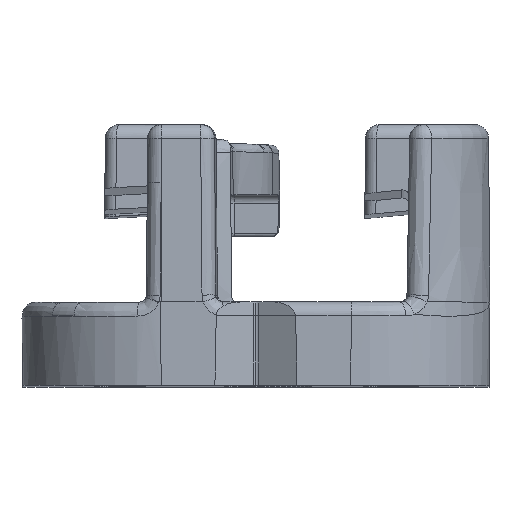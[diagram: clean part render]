
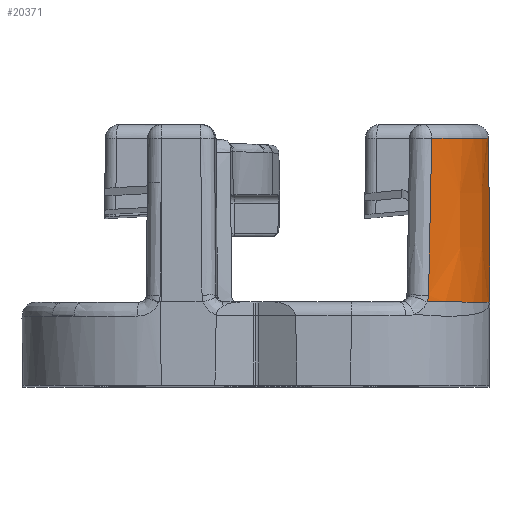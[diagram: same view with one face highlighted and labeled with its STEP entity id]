
A CAD part, top view. The second image highlights one B-rep face of the part: STEP entity #20371.
In plain terms, the highlighted conical face has half-angle 0.5 degrees and reference radius 4.961 mm.
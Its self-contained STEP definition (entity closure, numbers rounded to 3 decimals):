
#158 = CARTESIAN_POINT ( 'NONE',  ( 6.228, -6.159, 24.083 ) ) ;
#423 = VERTEX_POINT ( 'NONE', #7329 ) ;
#936 = EDGE_CURVE ( 'NONE', #16827, #423, #12722, .T. ) ;
#1351 = DIRECTION ( 'NONE',  ( 0., -1., 0. ) ) ;
#2146 = CARTESIAN_POINT ( 'NONE',  ( 6.304, -2.332, 23.99 ) ) ;
#2474 = B_SPLINE_CURVE_WITH_KNOTS ( 'NONE', 3,
 ( #21622, #8543, #6410, #23764, #2146, #17073, #11248, #6275, #14941, #158 ),
 .UNSPECIFIED., .F., .F.,
 ( 4, 3, 3, 4 ),
 ( 0., 0.001, 0.005, 0.006 ),
 .UNSPECIFIED. ) ;
#3490 = FACE_OUTER_BOUND ( 'NONE', #5297, .T. ) ;
#3753 = CARTESIAN_POINT ( 'NONE',  ( 8.444, -6.4, 19.918 ) ) ;
#4859 = CARTESIAN_POINT ( 'NONE',  ( 6.228, -6.159, 24.083 ) ) ;
#5229 = VERTEX_POINT ( 'NONE', #4859 ) ;
#5297 = EDGE_LOOP ( 'NONE', ( #16585, #17966, #19779, #22817, #7320, #9445 ) ) ;
#6169 = EDGE_CURVE ( 'NONE', #24828, #27653, #22641, .T. ) ;
#6275 = CARTESIAN_POINT ( 'NONE',  ( 6.243, -5.385, 24.064 ) ) ;
#6410 = CARTESIAN_POINT ( 'NONE',  ( 6.334, -0.832, 23.952 ) ) ;
#6618 = AXIS2_PLACEMENT_3D ( 'NONE', #11874, #1351, #20550 ) ;
#7320 = ORIENTED_EDGE ( 'NONE', *, *, #6169, .T. ) ;
#7329 = CARTESIAN_POINT ( 'NONE',  ( 6.341, -0.496, 23.943 ) ) ;
#8246 = CARTESIAN_POINT ( 'NONE',  ( 6.179, -6.4, 24.118 ) ) ;
#8341 = CARTESIAN_POINT ( 'NONE',  ( 3.418, -0.496, 19.918 ) ) ;
#8543 = CARTESIAN_POINT ( 'NONE',  ( 6.338, -0.664, 23.948 ) ) ;
#8803 = EDGE_CURVE ( 'NONE', #16827, #17931, #18554, .T. ) ;
#9025 = DIRECTION ( 'NONE',  ( 0., 1., 0. ) ) ;
#9445 = ORIENTED_EDGE ( 'NONE', *, *, #22477, .T. ) ;
#9707 = CARTESIAN_POINT ( 'NONE',  ( 6.209, -6.324, 24.097 ) ) ;
#11248 = CARTESIAN_POINT ( 'NONE',  ( 6.251, -4.997, 24.055 ) ) ;
#11874 = CARTESIAN_POINT ( 'NONE',  ( 3.418, 1., 19.918 ) ) ;
#12000 = CARTESIAN_POINT ( 'NONE',  ( 6.226, -6.243, 24.085 ) ) ;
#12218 = B_SPLINE_CURVE_WITH_KNOTS ( 'NONE', 3,
 ( #25059, #12000, #9707, #20669 ),
 .UNSPECIFIED., .F., .F.,
 ( 4, 4 ),
 ( 0., 0. ),
 .UNSPECIFIED. ) ;
#12282 = EDGE_CURVE ( 'NONE', #423, #5229, #2474, .T. ) ;
#12722 = CIRCLE ( 'NONE', #25415, 4.974 ) ;
#12829 = CIRCLE ( 'NONE', #25072, 5.026 ) ;
#12908 = DIRECTION ( 'NONE',  ( 0., -1., 0. ) ) ;
#13434 = DIRECTION ( 'NONE',  ( 0., 0., 1. ) ) ;
#14238 = CARTESIAN_POINT ( 'NONE',  ( 8.444, -6.4, 19.918 ) ) ;
#14683 = EDGE_CURVE ( 'NONE', #5229, #24828, #12218, .T. ) ;
#14899 = CARTESIAN_POINT ( 'NONE',  ( 3.418, -6.4, 19.918 ) ) ;
#14941 = CARTESIAN_POINT ( 'NONE',  ( 6.236, -5.772, 24.074 ) ) ;
#15241 = CONICAL_SURFACE ( 'NONE', #6618, 4.961, 0.009 ) ;
#15685 = CARTESIAN_POINT ( 'NONE',  ( 8.393, -0.496, 19.918 ) ) ;
#16585 = ORIENTED_EDGE ( 'NONE', *, *, #8803, .F. ) ;
#16827 = VERTEX_POINT ( 'NONE', #15685 ) ;
#17073 = CARTESIAN_POINT ( 'NONE',  ( 6.278, -3.665, 24.023 ) ) ;
#17648 = AXIS2_PLACEMENT_3D ( 'NONE', #14899, #20742, #19035 ) ;
#17931 = VERTEX_POINT ( 'NONE', #20562 ) ;
#17966 = ORIENTED_EDGE ( 'NONE', *, *, #936, .T. ) ;
#18554 = LINE ( 'NONE', #3753, #27850 ) ;
#19035 = DIRECTION ( 'NONE',  ( 0., 0., 1. ) ) ;
#19779 = ORIENTED_EDGE ( 'NONE', *, *, #12282, .T. ) ;
#20371 = ADVANCED_FACE ( 'NONE', ( #3490 ), #15241, .T. ) ;
#20550 = DIRECTION ( 'NONE',  ( 0., 0., -1. ) ) ;
#20562 = CARTESIAN_POINT ( 'NONE',  ( 8.444, -6.4, 19.918 ) ) ;
#20669 = CARTESIAN_POINT ( 'NONE',  ( 6.179, -6.4, 24.118 ) ) ;
#20742 = DIRECTION ( 'NONE',  ( 0., 1., 0. ) ) ;
#21369 = DIRECTION ( 'NONE',  ( 0.009, -1., 0. ) ) ;
#21622 = CARTESIAN_POINT ( 'NONE',  ( 6.341, -0.496, 23.943 ) ) ;
#22239 = CARTESIAN_POINT ( 'NONE',  ( 3.418, -6.4, 19.918 ) ) ;
#22477 = EDGE_CURVE ( 'NONE', #27653, #17931, #12829, .T. ) ;
#22641 = CIRCLE ( 'NONE', #17648, 5.026 ) ;
#22817 = ORIENTED_EDGE ( 'NONE', *, *, #14683, .T. ) ;
#23764 = CARTESIAN_POINT ( 'NONE',  ( 6.331, -0.999, 23.956 ) ) ;
#24828 = VERTEX_POINT ( 'NONE', #8246 ) ;
#25059 = CARTESIAN_POINT ( 'NONE',  ( 6.228, -6.159, 24.083 ) ) ;
#25072 = AXIS2_PLACEMENT_3D ( 'NONE', #22239, #9025, #13434 ) ;
#25415 = AXIS2_PLACEMENT_3D ( 'NONE', #8341, #12908, #27830 ) ;
#27653 = VERTEX_POINT ( 'NONE', #14238 ) ;
#27830 = DIRECTION ( 'NONE',  ( 0., 0., -1. ) ) ;
#27850 = VECTOR ( 'NONE', #21369, 1000. ) ;
